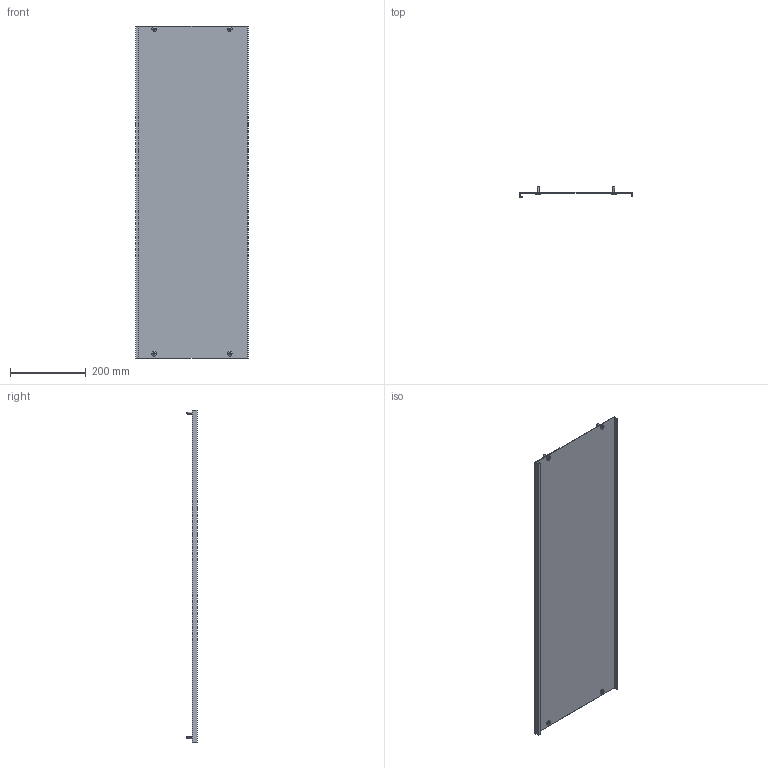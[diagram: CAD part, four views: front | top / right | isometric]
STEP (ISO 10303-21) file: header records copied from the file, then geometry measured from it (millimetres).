
FILE_DESCRIPTION (( 'STEP AP214' ), '1' );
FILE_NAME ('FO-00-PVS-030-100 Ïëàñòðîí ãëóõîé âíóòðåííèé 300õ1000.STEP', '2025-09-30T06:46:00', ( '' ), ( '' ), 'SwSTEP 2.0', 'SolidWorks 2023', '' );
FILE_SCHEMA (( 'AUTOMOTIVE_DESIGN' ));
Length unit declared in the file: millimetre
Products named in the file (3): Винт M6x16 030-100 IEK; FO-00-PVS-030-100 Пластрон глухой внутренний 300х1000
Assembly tree (3 placements, depth 2):
  FO-00-PVS-030-100 Пластрон глухой внутренний 300х1000
    FO-00-PVS-030-100 Пластрон глухой внутренний 300х1000
    Винт M6x16 030-100 IEK  x2
Bounding box: 298 x 27 x 879 mm (x, y, z)
Volume: 430038.5 mm3; surface area: 575583.5 mm2
Topology: 5 solids, 5 shells, 150 faces, 392 edges, 256 vertices
Faces by surface type: cylinder 88, plane 42, cone 12, bspline 8
Entity records: 3233 total; most frequent: CARTESIAN_POINT 724, ORIENTED_EDGE 512, DIRECTION 500, EDGE_CURVE 256, AXIS2_PLACEMENT_3D 180, VERTEX_POINT 168, LINE 140, VECTOR 140
